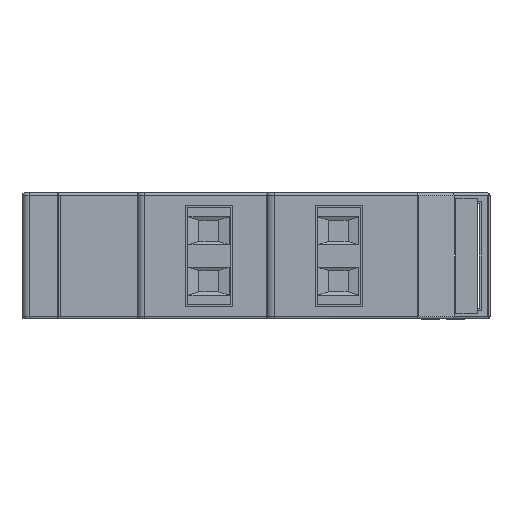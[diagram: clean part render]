
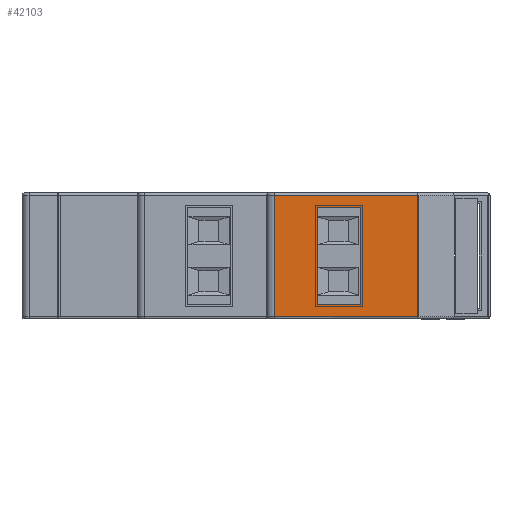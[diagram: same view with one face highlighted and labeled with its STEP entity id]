
A CAD part, left-side view. The second image highlights one B-rep face of the part: STEP entity #42103.
In plain terms, the highlighted planar face has unit normal (-1, 0, 0).
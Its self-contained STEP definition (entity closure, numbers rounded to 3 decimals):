
#1751 = CARTESIAN_POINT ( 'NONE',  ( 0., 0., 17.2 ) ) ;
#1761 = CARTESIAN_POINT ( 'NONE',  ( 0., 10., 0.3 ) ) ;
#1762 = LINE ( 'NONE', #1751, #36083 ) ;
#1766 = DIRECTION ( 'NONE',  ( 0., 1., 0. ) ) ;
#1774 = LINE ( 'NONE', #1761, #36093 ) ;
#1778 = DIRECTION ( 'NONE',  ( 0., -1., 0. ) ) ;
#2301 = EDGE_CURVE ( 'NONE', #5724, #5742, #26959, .T. ) ;
#2445 = EDGE_CURVE ( 'NONE', #5742, #5774, #11063, .T. ) ;
#2712 = EDGE_CURVE ( 'NONE', #5819, #5724, #13160, .T. ) ;
#4174 = VECTOR ( 'NONE', #13181, 1000. ) ;
#5724 = VERTEX_POINT ( 'NONE', #26370 ) ;
#5742 = VERTEX_POINT ( 'NONE', #26388 ) ;
#5774 = VERTEX_POINT ( 'NONE', #26420 ) ;
#5811 = VERTEX_POINT ( 'NONE', #26457 ) ;
#5819 = VERTEX_POINT ( 'NONE', #26465 ) ;
#5900 = VERTEX_POINT ( 'NONE', #26540 ) ;
#6373 = VERTEX_POINT ( 'NONE', #26822 ) ;
#6767 = VERTEX_POINT ( 'NONE', #37489 ) ;
#7682 = VECTOR ( 'NONE', #43766, 1000. ) ;
#7725 = VECTOR ( 'NONE', #42030, 1000. ) ;
#7992 = AXIS2_PLACEMENT_3D ( 'NONE', #23656, #23657, #23658 ) ;
#9773 = EDGE_CURVE ( 'NONE', #6767, #5811, #39688, .T. ) ;
#11061 = CARTESIAN_POINT ( 'NONE',  ( 0., 18., 2. ) ) ;
#11063 = LINE ( 'NONE', #11061, #30711 ) ;
#11074 = DIRECTION ( 'NONE',  ( 0., -1., 0. ) ) ;
#11552 = EDGE_CURVE ( 'NONE', #5900, #6767, #1762, .T. ) ;
#11556 = EDGE_CURVE ( 'NONE', #5811, #6373, #1774, .T. ) ;
#11882 = EDGE_CURVE ( 'NONE', #5774, #5819, #42022, .T. ) ;
#12397 = EDGE_CURVE ( 'NONE', #6373, #5900, #43764, .T. ) ;
#13160 = LINE ( 'NONE', #13180, #4174 ) ;
#13180 = CARTESIAN_POINT ( 'NONE',  ( 0., 18., 15.5 ) ) ;
#13181 = DIRECTION ( 'NONE',  ( 0., 1., 0. ) ) ;
#23644 = PLANE ( 'NONE',  #7992 ) ;
#23646 = FACE_BOUND ( 'NONE', #29305, .T. ) ;
#23648 = FACE_OUTER_BOUND ( 'NONE', #29311, .T. ) ;
#23656 = CARTESIAN_POINT ( 'NONE',  ( 0., 0., 17.5 ) ) ;
#23657 = DIRECTION ( 'NONE',  ( 1., 0., 0. ) ) ;
#23658 = DIRECTION ( 'NONE',  ( 0., 0., -1. ) ) ;
#26370 = CARTESIAN_POINT ( 'NONE',  ( 0., 24., 15.5 ) ) ;
#26388 = CARTESIAN_POINT ( 'NONE',  ( 0., 24., 2. ) ) ;
#26420 = CARTESIAN_POINT ( 'NONE',  ( 0., 18., 2. ) ) ;
#26457 = CARTESIAN_POINT ( 'NONE',  ( 0., 30., 0.3 ) ) ;
#26465 = CARTESIAN_POINT ( 'NONE',  ( 0., 18., 15.5 ) ) ;
#26540 = CARTESIAN_POINT ( 'NONE',  ( 0., 10., 17.2 ) ) ;
#26822 = CARTESIAN_POINT ( 'NONE',  ( 0., 10., 0.3 ) ) ;
#26959 = LINE ( 'NONE', #26972, #31085 ) ;
#26972 = CARTESIAN_POINT ( 'NONE',  ( 0., 24., 15.5 ) ) ;
#26974 = DIRECTION ( 'NONE',  ( 0., 0., -1. ) ) ;
#29305 = EDGE_LOOP ( 'NONE', ( #35664, #35662, #36185, #36184 ) ) ;
#29311 = EDGE_LOOP ( 'NONE', ( #36178, #36183, #36160, #36177 ) ) ;
#30711 = VECTOR ( 'NONE', #11074, 1000. ) ;
#31085 = VECTOR ( 'NONE', #26974, 1000. ) ;
#34822 = VECTOR ( 'NONE', #39697, 1000. ) ;
#35662 = ORIENTED_EDGE ( 'NONE', *, *, #2712, .F. ) ;
#35664 = ORIENTED_EDGE ( 'NONE', *, *, #2301, .F. ) ;
#36083 = VECTOR ( 'NONE', #1766, 1000. ) ;
#36093 = VECTOR ( 'NONE', #1778, 1000. ) ;
#36160 = ORIENTED_EDGE ( 'NONE', *, *, #12397, .T. ) ;
#36177 = ORIENTED_EDGE ( 'NONE', *, *, #11552, .T. ) ;
#36178 = ORIENTED_EDGE ( 'NONE', *, *, #9773, .T. ) ;
#36183 = ORIENTED_EDGE ( 'NONE', *, *, #11556, .T. ) ;
#36184 = ORIENTED_EDGE ( 'NONE', *, *, #2445, .F. ) ;
#36185 = ORIENTED_EDGE ( 'NONE', *, *, #11882, .F. ) ;
#37489 = CARTESIAN_POINT ( 'NONE',  ( 0., 30., 17.2 ) ) ;
#39688 = LINE ( 'NONE', #39695, #34822 ) ;
#39695 = CARTESIAN_POINT ( 'NONE',  ( 0., 30., 17.5 ) ) ;
#39697 = DIRECTION ( 'NONE',  ( 0., 0., -1. ) ) ;
#42022 = LINE ( 'NONE', #42027, #7725 ) ;
#42027 = CARTESIAN_POINT ( 'NONE',  ( 0., 18., 15.5 ) ) ;
#42030 = DIRECTION ( 'NONE',  ( 0., 0., 1. ) ) ;
#42103 = ADVANCED_FACE ( 'NONE', ( #23646, #23648 ), #23644, .F. ) ;
#43764 = LINE ( 'NONE', #43765, #7682 ) ;
#43765 = CARTESIAN_POINT ( 'NONE',  ( 0., 10., -11.18 ) ) ;
#43766 = DIRECTION ( 'NONE',  ( 0., 0., 1. ) ) ;
